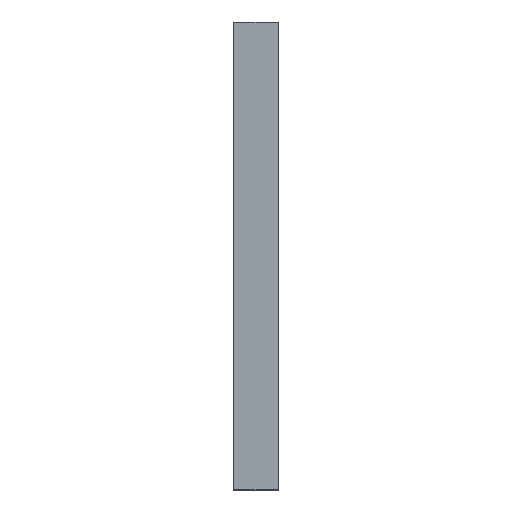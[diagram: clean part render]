
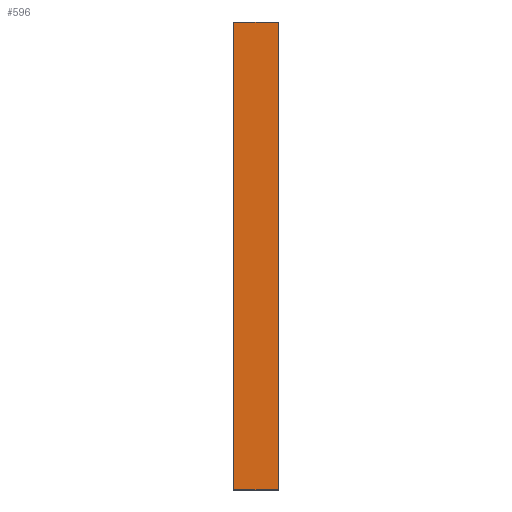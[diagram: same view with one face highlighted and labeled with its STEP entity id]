
A CAD part, left-side view. The second image highlights one B-rep face of the part: STEP entity #596.
In plain terms, the highlighted planar face has unit normal (-1, 0, 0).
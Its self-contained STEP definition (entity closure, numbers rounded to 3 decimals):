
#77 = LINE ( 'NONE', #78, #79 ) ;
#78 = CARTESIAN_POINT ( 'NONE',  ( 0., 0., -72.5 ) ) ;
#79 = VECTOR ( 'NONE', #80, 1000. ) ;
#80 = DIRECTION ( 'NONE',  ( 0., 1., 0. ) ) ;
#142 = CARTESIAN_POINT ( 'NONE',  ( 0., 0., -72.5 ) ) ;
#175 = VERTEX_POINT ( 'NONE', #659 ) ;
#271 = VERTEX_POINT ( 'NONE', #697 ) ;
#397 = EDGE_CURVE ( 'NONE', #175, #271, #742, .T. ) ;
#508 = EDGE_CURVE ( 'NONE', #811, #175, #859, .T. ) ;
#537 = ORIENTED_EDGE ( 'NONE', *, *, #615, .F. ) ;
#543 = ORIENTED_EDGE ( 'NONE', *, *, #508, .T. ) ;
#551 = VERTEX_POINT ( 'NONE', #142 ) ;
#573 = ORIENTED_EDGE ( 'NONE', *, *, #397, .T. ) ;
#582 = EDGE_LOOP ( 'NONE', ( #537, #589, #543, #573 ) ) ;
#587 = EDGE_CURVE ( 'NONE', #811, #551, #683, .T. ) ;
#589 = ORIENTED_EDGE ( 'NONE', *, *, #587, .F. ) ;
#596 = ADVANCED_FACE ( 'NONE', ( #760 ), #761, .T. ) ;
#615 = EDGE_CURVE ( 'NONE', #551, #271, #77, .T. ) ;
#659 = CARTESIAN_POINT ( 'NONE',  ( 0., 13.7, 72.5 ) ) ;
#683 = LINE ( 'NONE', #684, #685 ) ;
#684 = CARTESIAN_POINT ( 'NONE',  ( 0., 0., 72.5 ) ) ;
#685 = VECTOR ( 'NONE', #686, 1000. ) ;
#686 = DIRECTION ( 'NONE',  ( 0., 0., -1. ) ) ;
#697 = CARTESIAN_POINT ( 'NONE',  ( 0., 13.7, -72.5 ) ) ;
#742 = LINE ( 'NONE', #743, #744 ) ;
#743 = CARTESIAN_POINT ( 'NONE',  ( 0., 13.7, 72.5 ) ) ;
#744 = VECTOR ( 'NONE', #745, 1000. ) ;
#745 = DIRECTION ( 'NONE',  ( 0., 0., -1. ) ) ;
#760 = FACE_OUTER_BOUND ( 'NONE', #582, .T. ) ;
#761 = PLANE ( 'NONE',  #762 ) ;
#762 = AXIS2_PLACEMENT_3D ( 'NONE', #763, #764, #765 ) ;
#763 = CARTESIAN_POINT ( 'NONE',  ( 0., 0., 72.5 ) ) ;
#764 = DIRECTION ( 'NONE',  ( -1., 0., 0. ) ) ;
#765 = DIRECTION ( 'NONE',  ( 0., 0., 1. ) ) ;
#811 = VERTEX_POINT ( 'NONE', #812 ) ;
#812 = CARTESIAN_POINT ( 'NONE',  ( 0., 0., 72.5 ) ) ;
#859 = LINE ( 'NONE', #860, #861 ) ;
#860 = CARTESIAN_POINT ( 'NONE',  ( 0., 0., 72.5 ) ) ;
#861 = VECTOR ( 'NONE', #862, 1000. ) ;
#862 = DIRECTION ( 'NONE',  ( 0., 1., 0. ) ) ;
